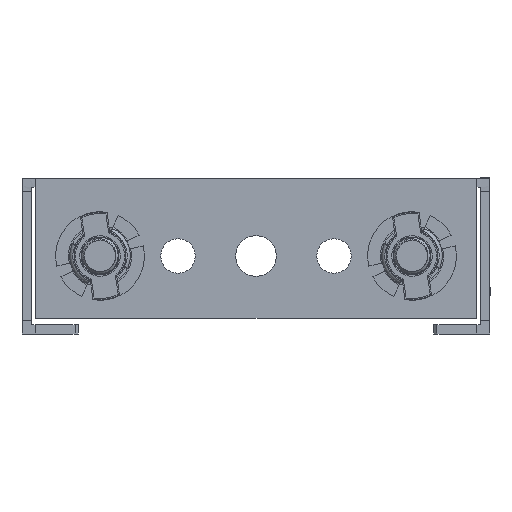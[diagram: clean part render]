
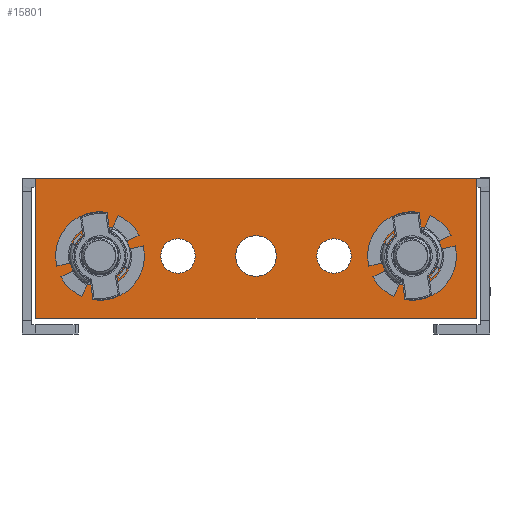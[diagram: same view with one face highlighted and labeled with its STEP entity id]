
A CAD part, left-side view. The second image highlights one B-rep face of the part: STEP entity #15801.
In plain terms, the highlighted planar face has unit normal (-1, 0, 0).
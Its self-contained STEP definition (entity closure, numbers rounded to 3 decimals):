
#7607 = VERTEX_POINT('',#7608);
#7608 = CARTESIAN_POINT('',(-149.,35.346,-0.));
#7615 = EDGE_CURVE('',#7616,#7607,#7618,.T.);
#7616 = VERTEX_POINT('',#7617);
#7617 = CARTESIAN_POINT('',(-149.,-35.346,0.));
#7618 = LINE('',#7619,#7620);
#7619 = CARTESIAN_POINT('',(-149.,0.,-0.));
#7620 = VECTOR('',#7621,1.);
#7621 = DIRECTION('',(-0.,1.,-0.));
#15602 = EDGE_CURVE('',#15603,#7616,#15605,.T.);
#15603 = VERTEX_POINT('',#15604);
#15604 = CARTESIAN_POINT('',(-149.,-35.293,-2.1));
#15605 = B_SPLINE_CURVE_WITH_KNOTS('',3,(#15606,#15607,#15608,#15609),
  .UNSPECIFIED.,.F.,.F.,(4,4),(0.002,0.004),
  .PIECEWISE_BEZIER_KNOTS.);
#15606 = CARTESIAN_POINT('',(-149.,-35.293,-2.1));
#15607 = CARTESIAN_POINT('',(-149.,-35.316,-1.4));
#15608 = CARTESIAN_POINT('',(-149.,-35.335,
    -0.7));
#15609 = CARTESIAN_POINT('',(-149.,-35.346,0.));
#15695 = EDGE_CURVE('',#15696,#7607,#15698,.T.);
#15696 = VERTEX_POINT('',#15697);
#15697 = CARTESIAN_POINT('',(-149.,35.293,-2.1));
#15698 = B_SPLINE_CURVE_WITH_KNOTS('',3,(#15699,#15700,#15701,#15702),
  .UNSPECIFIED.,.F.,.F.,(4,4),(0.002,0.004),
  .PIECEWISE_BEZIER_KNOTS.);
#15699 = CARTESIAN_POINT('',(-149.,35.293,-2.1));
#15700 = CARTESIAN_POINT('',(-149.,35.316,-1.4));
#15701 = CARTESIAN_POINT('',(-149.,35.335,
    -0.7));
#15702 = CARTESIAN_POINT('',(-149.,35.346,-0.));
#15777 = VERTEX_POINT('',#15778);
#15778 = CARTESIAN_POINT('',(-149.,-35.293,-22.5));
#15791 = EDGE_CURVE('',#15603,#15777,#15792,.T.);
#15792 = LINE('',#15793,#15794);
#15793 = CARTESIAN_POINT('',(-149.,-35.293,-1.5));
#15794 = VECTOR('',#15795,1.);
#15795 = DIRECTION('',(0.,0.,-1.));
#15801 = ADVANCED_FACE('',(#15802,#15813,#15824,#15835,#15846,#15857),
  #15877,.F.);
#15802 = FACE_BOUND('',#15803,.T.);
#15803 = EDGE_LOOP('',(#15804));
#15804 = ORIENTED_EDGE('',*,*,#15805,.F.);
#15805 = EDGE_CURVE('',#15806,#15806,#15808,.T.);
#15806 = VERTEX_POINT('',#15807);
#15807 = CARTESIAN_POINT('',(-149.,-12.5,-9.75));
#15808 = CIRCLE('',#15809,2.75);
#15809 = AXIS2_PLACEMENT_3D('',#15810,#15811,#15812);
#15810 = CARTESIAN_POINT('',(-149.,-12.5,-12.5));
#15811 = DIRECTION('',(-1.,0.,0.));
#15812 = DIRECTION('',(0.,0.,1.));
#15813 = FACE_BOUND('',#15814,.T.);
#15814 = EDGE_LOOP('',(#15815));
#15815 = ORIENTED_EDGE('',*,*,#15816,.F.);
#15816 = EDGE_CURVE('',#15817,#15817,#15819,.T.);
#15817 = VERTEX_POINT('',#15818);
#15818 = CARTESIAN_POINT('',(-149.,12.5,-15.25));
#15819 = CIRCLE('',#15820,2.75);
#15820 = AXIS2_PLACEMENT_3D('',#15821,#15822,#15823);
#15821 = CARTESIAN_POINT('',(-149.,12.5,-12.5));
#15822 = DIRECTION('',(-1.,0.,0.));
#15823 = DIRECTION('',(0.,0.,-1.));
#15824 = FACE_BOUND('',#15825,.T.);
#15825 = EDGE_LOOP('',(#15826));
#15826 = ORIENTED_EDGE('',*,*,#15827,.F.);
#15827 = EDGE_CURVE('',#15828,#15828,#15830,.T.);
#15828 = VERTEX_POINT('',#15829);
#15829 = CARTESIAN_POINT('',(-149.,25.,-15.75));
#15830 = CIRCLE('',#15831,3.25);
#15831 = AXIS2_PLACEMENT_3D('',#15832,#15833,#15834);
#15832 = CARTESIAN_POINT('',(-149.,25.,-12.5));
#15833 = DIRECTION('',(-1.,0.,0.));
#15834 = DIRECTION('',(0.,0.,-1.));
#15835 = FACE_BOUND('',#15836,.T.);
#15836 = EDGE_LOOP('',(#15837));
#15837 = ORIENTED_EDGE('',*,*,#15838,.F.);
#15838 = EDGE_CURVE('',#15839,#15839,#15841,.T.);
#15839 = VERTEX_POINT('',#15840);
#15840 = CARTESIAN_POINT('',(-149.,-25.,-9.25));
#15841 = CIRCLE('',#15842,3.25);
#15842 = AXIS2_PLACEMENT_3D('',#15843,#15844,#15845);
#15843 = CARTESIAN_POINT('',(-149.,-25.,-12.5));
#15844 = DIRECTION('',(-1.,0.,0.));
#15845 = DIRECTION('',(0.,0.,1.));
#15846 = FACE_BOUND('',#15847,.T.);
#15847 = EDGE_LOOP('',(#15848));
#15848 = ORIENTED_EDGE('',*,*,#15849,.F.);
#15849 = EDGE_CURVE('',#15850,#15850,#15852,.T.);
#15850 = VERTEX_POINT('',#15851);
#15851 = CARTESIAN_POINT('',(-149.,0.,-9.25));
#15852 = CIRCLE('',#15853,3.25);
#15853 = AXIS2_PLACEMENT_3D('',#15854,#15855,#15856);
#15854 = CARTESIAN_POINT('',(-149.,0.,-12.5));
#15855 = DIRECTION('',(-1.,0.,0.));
#15856 = DIRECTION('',(0.,0.,1.));
#15857 = FACE_BOUND('',#15858,.T.);
#15858 = EDGE_LOOP('',(#15859,#15860,#15861,#15862,#15863,#15871));
#15859 = ORIENTED_EDGE('',*,*,#15791,.F.);
#15860 = ORIENTED_EDGE('',*,*,#15602,.T.);
#15861 = ORIENTED_EDGE('',*,*,#7615,.T.);
#15862 = ORIENTED_EDGE('',*,*,#15695,.F.);
#15863 = ORIENTED_EDGE('',*,*,#15864,.T.);
#15864 = EDGE_CURVE('',#15696,#15865,#15867,.T.);
#15865 = VERTEX_POINT('',#15866);
#15866 = CARTESIAN_POINT('',(-149.,35.293,-22.5));
#15867 = LINE('',#15868,#15869);
#15868 = CARTESIAN_POINT('',(-149.,35.293,0.));
#15869 = VECTOR('',#15870,1.);
#15870 = DIRECTION('',(0.,0.,-1.));
#15871 = ORIENTED_EDGE('',*,*,#15872,.F.);
#15872 = EDGE_CURVE('',#15777,#15865,#15873,.T.);
#15873 = LINE('',#15874,#15875);
#15874 = CARTESIAN_POINT('',(-149.,-37.5,-22.5));
#15875 = VECTOR('',#15876,1.);
#15876 = DIRECTION('',(-0.,1.,-0.));
#15877 = PLANE('',#15878);
#15878 = AXIS2_PLACEMENT_3D('',#15879,#15880,#15881);
#15879 = CARTESIAN_POINT('',(-149.,0.,0.));
#15880 = DIRECTION('',(1.,0.,0.));
#15881 = DIRECTION('',(0.,0.,-1.));
